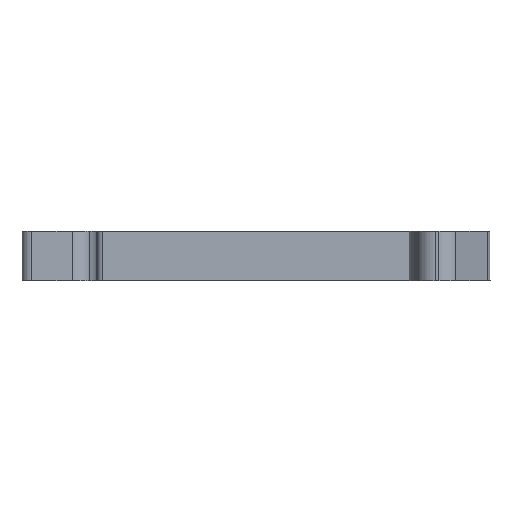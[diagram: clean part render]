
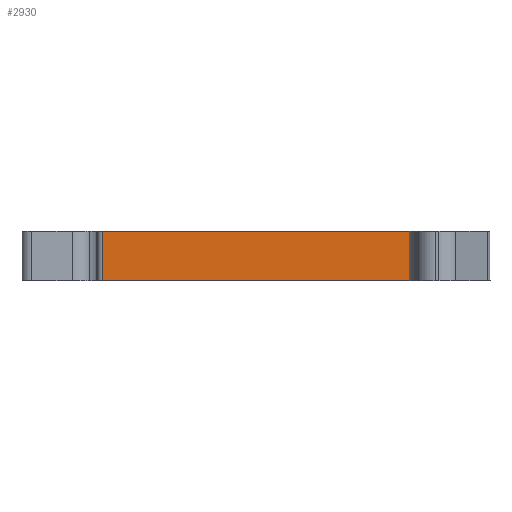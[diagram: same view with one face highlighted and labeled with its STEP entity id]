
A CAD part, front view. The second image highlights one B-rep face of the part: STEP entity #2930.
In plain terms, the highlighted planar face has unit normal (0, -1, 0).
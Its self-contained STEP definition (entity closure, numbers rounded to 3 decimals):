
#2540=CARTESIAN_POINT('',(-0.009,-9.955,
42.171));
#2550=DIRECTION('',(0.,-1.,0.));
#2560=DIRECTION('',(-1.,0.,0.));
#2570=AXIS2_PLACEMENT_3D('',#2540,#2550,#2560);
#2580=PLANE('',#2570);
#2590=CARTESIAN_POINT('',(33.012,-9.955,
42.171));
#2600=DIRECTION('',(0.,0.,-1.));
#2610=VECTOR('',#2600,1.);
#2620=LINE('',#2590,#2610);
#2630=CARTESIAN_POINT('',(33.012,-9.955,
42.171));
#2640=VERTEX_POINT('',#2630);
#2650=CARTESIAN_POINT('',(33.012,-9.955,
37.021));
#2660=VERTEX_POINT('',#2650);
#2670=EDGE_CURVE('',#2640,#2660,#2620,.T.);
#2680=ORIENTED_EDGE('',*,*,#2670,.F.);
#2690=CARTESIAN_POINT('',(-1.997,-9.955,
37.021));
#2700=DIRECTION('',(1.,0.,0.));
#2710=VECTOR('',#2700,1.);
#2720=LINE('',#2690,#2710);
#2730=CARTESIAN_POINT('',(-0.14,-9.955,
37.021));
#2740=VERTEX_POINT('',#2730);
#2750=EDGE_CURVE('',#2740,#2660,#2720,.T.);
#2760=ORIENTED_EDGE('',*,*,#2750,.T.);
#2770=CARTESIAN_POINT('',(-0.14,-9.955,
36.152));
#2780=DIRECTION('',(0.,0.,1.));
#2790=VECTOR('',#2780,1.);
#2800=LINE('',#2770,#2790);
#2810=CARTESIAN_POINT('',(-0.14,-9.955,
42.171));
#2820=VERTEX_POINT('',#2810);
#2830=EDGE_CURVE('',#2740,#2820,#2800,.T.);
#2840=ORIENTED_EDGE('',*,*,#2830,.F.);
#2850=CARTESIAN_POINT('',(-1.997,-9.955,
42.171));
#2860=DIRECTION('',(-1.,0.,0.));
#2870=VECTOR('',#2860,1.);
#2880=LINE('',#2850,#2870);
#2890=EDGE_CURVE('',#2640,#2820,#2880,.T.);
#2900=ORIENTED_EDGE('',*,*,#2890,.T.);
#2910=EDGE_LOOP('',(#2900,#2840,#2760,#2680));
#2920=FACE_OUTER_BOUND('',#2910,.T.);
#2930=ADVANCED_FACE('',(#2920),#2580,.T.);
